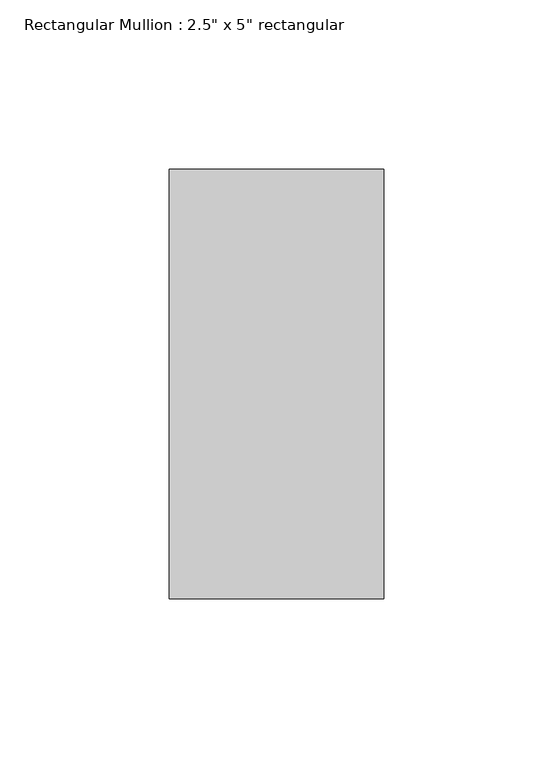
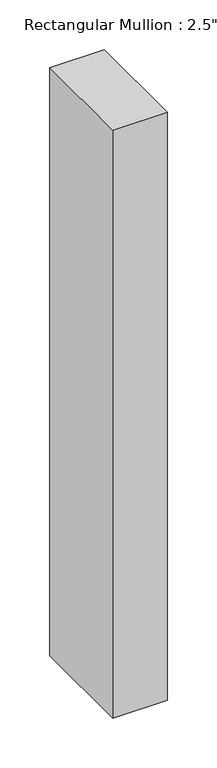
"""IFC4 building model written with IfcOpenShell, lengths in millimetres: member geometry."""

from ifc_helpers import new_model, si_unit, frame, origin, place, context, project, spatial, polyline, outline, extrude, source, transform, mapped, element, save


def member_a43dcf29(model_context):
    return source(origin(), model_context, "Body", "SweptSolid", [
        extrude(outline(polyline([(31.75, 63.5), (31.75, -63.5), (-31.75, -63.5), (-31.75, 63.5), (31.75, 63.5)])), frame((0.0, 0.0, -723.9), z_axis=(0.0, 0.0, 1.0), x_axis=(1.0, 0.0, 0.0)), (0.0, 0.0, 1.0), 723.9),
    ])


if __name__ == "__main__":
    model = new_model("IFC4")
    model_context = context("Model", 3, world=origin())
    ifc_project = project(units=[si_unit("LENGTHUNIT", "METRE", prefix="MILLI")], contexts=[model_context])
    site = spatial("IfcSite", under=ifc_project)
    building = spatial("IfcBuilding", under=site)
    placement = place(None, origin())
    member_shape = member_a43dcf29(model_context)
    element("IfcMember", 1, ObjectType="Rectangular Mullion : 2.5\" x 5\" rectangular", at=placement, inside=building, context=model_context, shape_type="MappedRepresentation", body=[
        mapped(member_shape, transform((0.0, 0.0, 0.0), x_axis=(1.0, 0.0, 0.0), y_axis=(0.0, 1.0, 0.0), z_axis=(0.0, 0.0, 1.0))),
    ])
    save(model, "model.ifc")
